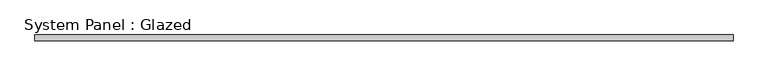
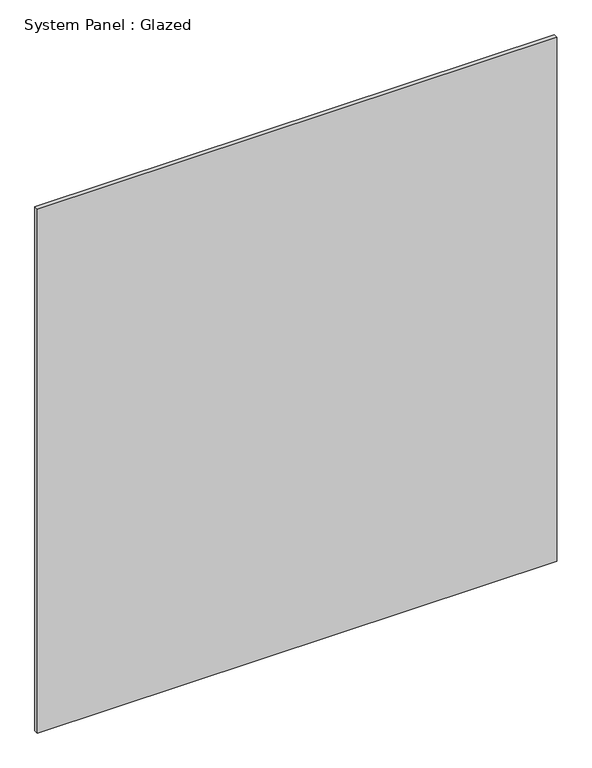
"""IFC4 building model written with IfcOpenShell, lengths in millimetres: plate geometry, System Panel : Glazed."""

from ifc_helpers import new_model, si_unit, origin, origin_with_axes, place, context, project, spatial, polyline, outline, extrude, source, transform, mapped, element, save


def system_panel_glazed_123eee61(model_context):
    return source(origin(), model_context, "Body", "SweptSolid", [
        extrude(outline(polyline([(1466.25, -49.5), (-1466.25, -49.5), (-1466.25, -24.5), (1466.25, -24.5), (1466.25, -49.5)])), origin_with_axes(), (0.0, 0.0, 1.0), 3125.0),
    ])


if __name__ == "__main__":
    model = new_model("IFC4")
    model_context = context("Model", 3, world=origin())
    ifc_project = project(units=[si_unit("LENGTHUNIT", "METRE", prefix="MILLI")], contexts=[model_context])
    site = spatial("IfcSite", under=ifc_project)
    building = spatial("IfcBuilding", under=site)
    placement = place(None, origin())
    system_panel_glazed_shape = system_panel_glazed_123eee61(model_context)
    element("IfcPlate", 1, ObjectType="System Panel : Glazed", at=placement, inside=building, context=model_context, shape_type="MappedRepresentation", body=[
        mapped(system_panel_glazed_shape, transform((0.0, 0.0, 0.0), x_axis=(1.0, 0.0, 0.0), y_axis=(0.0, 1.0, 0.0), z_axis=(0.0, 0.0, 1.0))),
    ])
    save(model, "model.ifc")
